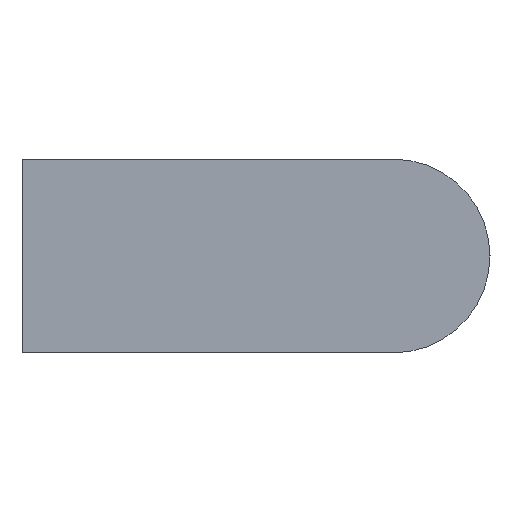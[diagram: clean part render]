
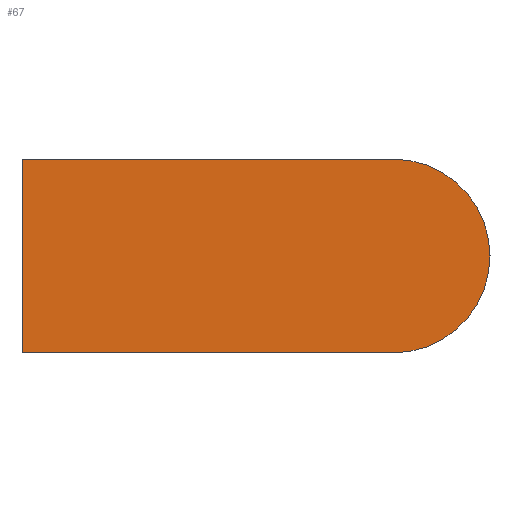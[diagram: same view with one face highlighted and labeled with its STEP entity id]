
A CAD part, left-side view. The second image highlights one B-rep face of the part: STEP entity #67.
In plain terms, the highlighted planar face has unit normal (-1, 0, 0).
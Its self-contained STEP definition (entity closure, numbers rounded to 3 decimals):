
#67 = ADVANCED_FACE( '', ( #136 ), #137, .F. );
#136 = FACE_OUTER_BOUND( '', #201, .T. );
#137 = PLANE( '', #202 );
#201 = EDGE_LOOP( '', ( #319, #320, #321, #322 ) );
#202 = AXIS2_PLACEMENT_3D( '', #323, #324, #325 );
#319 = ORIENTED_EDGE( '', *, *, #367, .F. );
#320 = ORIENTED_EDGE( '', *, *, #355, .F. );
#321 = ORIENTED_EDGE( '', *, *, #378, .F. );
#322 = ORIENTED_EDGE( '', *, *, #381, .F. );
#323 = CARTESIAN_POINT( '', ( -15., -28.04, 0. ) );
#324 = DIRECTION( '', ( 1., 0., 0. ) );
#325 = DIRECTION( '', ( 0., 0., -1. ) );
#355 = EDGE_CURVE( '', #410, #411, #412, .T. );
#367 = EDGE_CURVE( '', #411, #430, #431, .T. );
#378 = EDGE_CURVE( '', #444, #410, #445, .T. );
#381 = EDGE_CURVE( '', #430, #444, #448, .T. );
#410 = VERTEX_POINT( '', #485 );
#411 = VERTEX_POINT( '', #486 );
#412 = LINE( '', #487, #488 );
#430 = VERTEX_POINT( '', #511 );
#431 = LINE( '', #512, #513 );
#444 = VERTEX_POINT( '', #531 );
#445 = LINE( '', #532, #533 );
#448 = CIRCLE( '', #537, 7.32 );
#485 = CARTESIAN_POINT( '', ( -15., 0., -7.32 ) );
#486 = CARTESIAN_POINT( '', ( -15., 0., 7.32 ) );
#487 = CARTESIAN_POINT( '', ( -15., 0., -7.32 ) );
#488 = VECTOR( '', #563, 1000. );
#511 = CARTESIAN_POINT( '', ( -15., -28.04, 7.32 ) );
#512 = CARTESIAN_POINT( '', ( -15., 0., 7.32 ) );
#513 = VECTOR( '', #578, 1000. );
#531 = CARTESIAN_POINT( '', ( -15., -28.04, -7.32 ) );
#532 = CARTESIAN_POINT( '', ( -15., -28.04, -7.32 ) );
#533 = VECTOR( '', #587, 1000. );
#537 = AXIS2_PLACEMENT_3D( '', #589, #590, #591 );
#563 = DIRECTION( '', ( 0., 0., 1. ) );
#578 = DIRECTION( '', ( 0., -1., 0. ) );
#587 = DIRECTION( '', ( 0., 1., 0. ) );
#589 = CARTESIAN_POINT( '', ( -15., -28.04, 0. ) );
#590 = DIRECTION( '', ( 1., 0., 0. ) );
#591 = DIRECTION( '', ( 0., 0., -1. ) );
